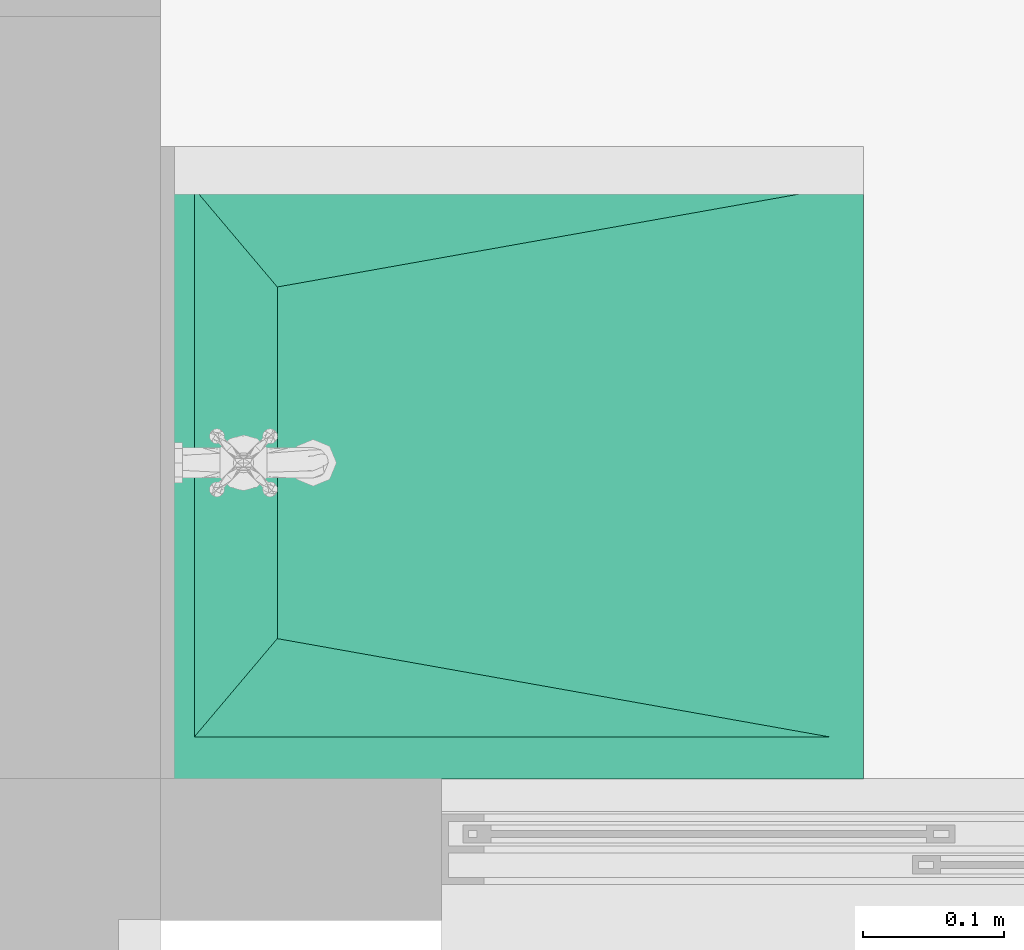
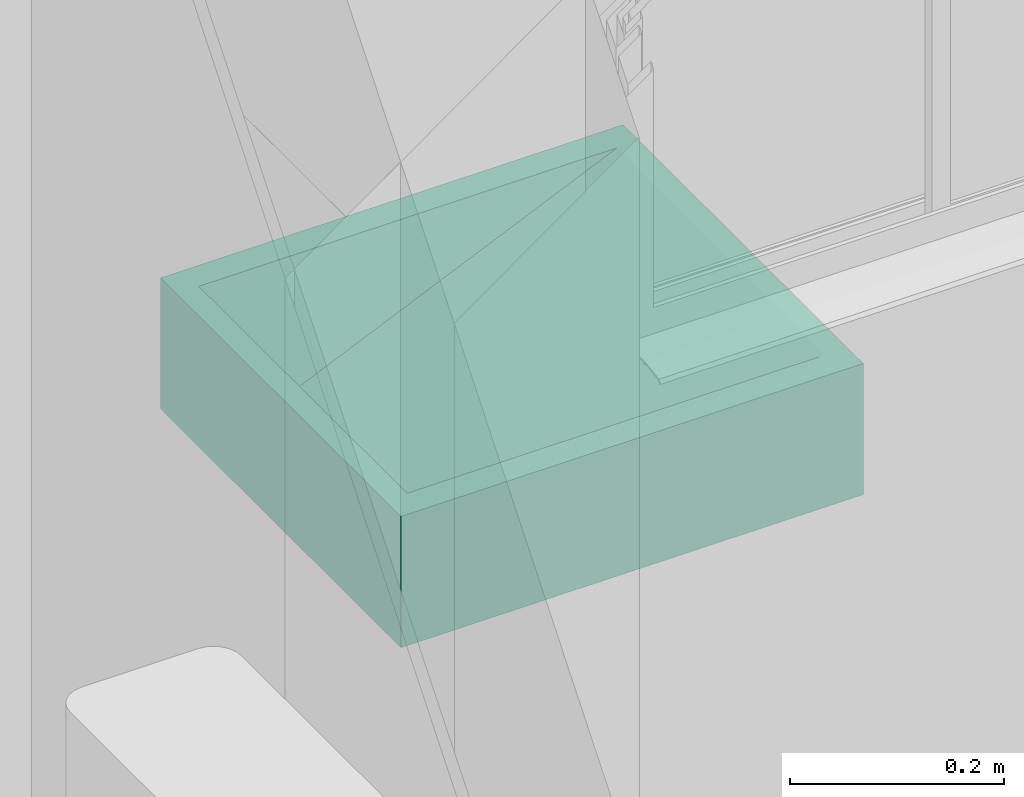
# One storey, part 38 of 47: 1 flow terminal.
"""IFC4 building model written with IfcOpenShell, lengths in metres."""

from ifc_helpers import new_model, entity, si_unit, converted_unit, derived_unit, direction, frame, origin, place, context, subcontext, project, spatial, polygons, source, transform, mapped, material, type_object, type_shapes, element, save


model = new_model("IFC4")

# Units and contexts
model_context = context("Model", 3, precision=1e-05, world=origin(), true_north=direction((6.123031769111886e-17, 1.0)))
body_context = subcontext(model_context, "Body", "Model", "MODEL_VIEW")
ifc_project = project(units=[si_unit("LENGTHUNIT", "METRE"), si_unit("AREAUNIT", "SQUARE_METRE"), si_unit("VOLUMEUNIT", "CUBIC_METRE"), converted_unit("PLANEANGLEUNIT", "DEGREE", entity("IfcRatioMeasure", 0.017453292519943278), si_unit("PLANEANGLEUNIT", "RADIAN"), dimensions=[0, 0, 0, 0, 0, 0, 0]), si_unit("MASSUNIT", "GRAM", prefix="KILO"), derived_unit("MASSDENSITYUNIT", [(si_unit("MASSUNIT", "GRAM", prefix="KILO"), 1), (si_unit("LENGTHUNIT", "METRE"), -3)]), derived_unit("IONCONCENTRATIONUNIT", [(si_unit("MASSUNIT", "GRAM", prefix="KILO"), 1), (si_unit("LENGTHUNIT", "METRE"), -3)]), derived_unit("MOMENTOFINERTIAUNIT", [(si_unit("LENGTHUNIT", "METRE"), 4)]), si_unit("TIMEUNIT", "SECOND"), si_unit("FREQUENCYUNIT", "HERTZ"), si_unit("THERMODYNAMICTEMPERATUREUNIT", "DEGREE_CELSIUS"), derived_unit("THERMALTRANSMITTANCEUNIT", [(si_unit("MASSUNIT", "GRAM", prefix="KILO"), 1), (si_unit("THERMODYNAMICTEMPERATUREUNIT", "KELVIN"), -1), (si_unit("TIMEUNIT", "SECOND"), -3)]), derived_unit("THERMALCONDUCTANCEUNIT", [(si_unit("MASSUNIT", "GRAM", prefix="KILO"), 1), (si_unit("THERMODYNAMICTEMPERATUREUNIT", "KELVIN"), -1), (si_unit("TIMEUNIT", "SECOND"), -3), (si_unit("LENGTHUNIT", "METRE"), 1)]), derived_unit("VOLUMETRICFLOWRATEUNIT", [(si_unit("LENGTHUNIT", "METRE"), 3), (si_unit("TIMEUNIT", "SECOND"), -1)]), derived_unit("MASSFLOWRATEUNIT", [(si_unit("MASSUNIT", "GRAM", prefix="KILO"), 1), (si_unit("TIMEUNIT", "SECOND"), -1)]), derived_unit("ROTATIONALFREQUENCYUNIT", [(si_unit("TIMEUNIT", "SECOND"), -1)]), si_unit("ELECTRICCURRENTUNIT", "AMPERE"), si_unit("ELECTRICVOLTAGEUNIT", "VOLT"), si_unit("POWERUNIT", "WATT"), si_unit("FORCEUNIT", "NEWTON", prefix="KILO"), si_unit("ILLUMINANCEUNIT", "LUX"), si_unit("LUMINOUSFLUXUNIT", "LUMEN"), si_unit("LUMINOUSINTENSITYUNIT", "CANDELA"), derived_unit("USERDEFINED", [(si_unit("MASSUNIT", "GRAM", prefix="KILO"), -1), (si_unit("LENGTHUNIT", "METRE"), -2), (si_unit("TIMEUNIT", "SECOND"), 3), (si_unit("LUMINOUSFLUXUNIT", "LUMEN"), 1)]), derived_unit("USERDEFINED", [(si_unit("MASSUNIT", "GRAM", prefix="KILO"), 1), (si_unit("TIMEUNIT", "SECOND"), -3), (si_unit("LENGTHUNIT", "METRE"), 3), (si_unit("ELECTRICCURRENTUNIT", "AMPERE"), -2)]), derived_unit("SOUNDPOWERUNIT", [(si_unit("MASSUNIT", "GRAM", prefix="KILO"), 1), (si_unit("TIMEUNIT", "SECOND"), -3), (si_unit("LENGTHUNIT", "METRE"), 2)]), derived_unit("SOUNDPRESSUREUNIT", [(si_unit("MASSUNIT", "GRAM", prefix="KILO"), 1), (si_unit("LENGTHUNIT", "METRE"), -1), (si_unit("TIMEUNIT", "SECOND"), -2)]), derived_unit("LINEARVELOCITYUNIT", [(si_unit("LENGTHUNIT", "METRE"), 1), (si_unit("TIMEUNIT", "SECOND"), -1)]), si_unit("PRESSUREUNIT", "PASCAL"), derived_unit("USERDEFINED", [(si_unit("MASSUNIT", "GRAM", prefix="KILO"), 1), (si_unit("LENGTHUNIT", "METRE"), -2), (si_unit("TIMEUNIT", "SECOND"), -2)]), derived_unit("LINEARFORCEUNIT", [(si_unit("MASSUNIT", "GRAM", prefix="KILO"), 1), (si_unit("TIMEUNIT", "SECOND"), -2)]), derived_unit("PLANARFORCEUNIT", [(si_unit("MASSUNIT", "GRAM", prefix="KILO"), 1), (si_unit("LENGTHUNIT", "METRE"), -1), (si_unit("TIMEUNIT", "SECOND"), -2)]), derived_unit("SPECIFICHEATCAPACITYUNIT", [(si_unit("THERMODYNAMICTEMPERATUREUNIT", "KELVIN"), -1), (si_unit("LENGTHUNIT", "METRE"), 2), (si_unit("TIMEUNIT", "SECOND"), -2)]), derived_unit("HEATINGVALUEUNIT", [(si_unit("LENGTHUNIT", "METRE"), 2), (si_unit("TIMEUNIT", "SECOND"), -2)]), derived_unit("VAPORPERMEABILITYUNIT", [(si_unit("LENGTHUNIT", "METRE"), -1), (si_unit("TIMEUNIT", "SECOND"), 1)]), derived_unit("DYNAMICVISCOSITYUNIT", [(si_unit("MASSUNIT", "GRAM", prefix="KILO"), 1), (si_unit("TIMEUNIT", "SECOND"), -1), (si_unit("LENGTHUNIT", "METRE"), -1)]), derived_unit("THERMALEXPANSIONCOEFFICIENTUNIT", [(si_unit("THERMODYNAMICTEMPERATUREUNIT", "KELVIN"), -1)]), derived_unit("MODULUSOFELASTICITYUNIT", [(si_unit("MASSUNIT", "GRAM", prefix="KILO"), 1), (si_unit("LENGTHUNIT", "METRE"), -1), (si_unit("TIMEUNIT", "SECOND"), -2)]), derived_unit("ISOTHERMALMOISTURECAPACITYUNIT", [(si_unit("LENGTHUNIT", "METRE"), 3), (si_unit("MASSUNIT", "GRAM", prefix="KILO"), -1)]), derived_unit("MOISTUREDIFFUSIVITYUNIT", [(si_unit("TIMEUNIT", "SECOND"), -1), (si_unit("LENGTHUNIT", "METRE"), 2)])], contexts=[model_context])

# Site, building, storey, space
site_placement = place(None, origin())
site = spatial("IfcSite", under=ifc_project, at=site_placement, Name="Default", CompositionType="ELEMENT")
building_placement = place(site_placement, origin())
building = spatial("IfcBuilding", under=site, at=building_placement, CompositionType="ELEMENT")
storey_placement = place(building_placement, frame((0.0, 0.0, 11.750000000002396)))
storey = spatial("IfcBuildingStorey", under=building, at=storey_placement, Name="Nivel 6", CompositionType="ELEMENT", Elevation=11.750000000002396)
space_placement = place(storey_placement, origin())
space = spatial("IfcSpace", under=storey, at=space_placement, Name="321", CompositionType="ELEMENT", PredefinedType="SPACE")

# Flow terminal
ifc_material = material(Name="Lavadero", Category="Materials")
distribution_element_type = type_object("IfcDistributionElementType", Name="D2010 - Lavadero - Granito:D2010 - Lavadero - Concreto", material=ifc_material)
shared_shape = source(origin(), body_context, "Body", "Tessellation", [
    polygons([(0.03000000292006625, 0.47600086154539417, 0.15000000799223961), (0.02999997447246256, 0.024000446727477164, 0.15000000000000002), (0.09992663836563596, 0.08303011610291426, 0.05000015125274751), (0.4199999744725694, 0.024000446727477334, 0.15000000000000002), (0.3500731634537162, 0.08303019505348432, 0.050000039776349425), (0.4199999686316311, 0.4760007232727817, 0.15000001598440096), (0.4499999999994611, 0.5000004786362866, 0.0), (0.4499999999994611, 0.5000004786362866, 0.15000000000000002), (0.4499999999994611, 3.383959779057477e-17, 0.15000000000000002), (0.4499999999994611, 3.383959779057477e-17, 0.0), (6.767919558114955e-17, 0.5000004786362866, 0.0), (6.767919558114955e-17, 0.5000004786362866, 0.15000000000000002), (6.767919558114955e-17, 3.383959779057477e-17, 0.0), (6.767919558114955e-17, 3.383959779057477e-17, 0.15000000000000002), (0.4199999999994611, 0.4800004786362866, 0.0), (0.030000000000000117, 0.4800004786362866, 0.0), (0.030000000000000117, 0.019999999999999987, 0.0), (0.4199999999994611, 0.019999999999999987, 0.0), (0.4199999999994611, 0.4800004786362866, 0.034883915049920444), (0.4199999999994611, 0.019999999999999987, 0.034883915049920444), (0.030000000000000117, 0.4800004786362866, 0.034883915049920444), (0.030000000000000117, 0.019999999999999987, 0.034883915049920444)], [[[1, 2, 3]], [[2, 4, 5, 3]], [[4, 6, 5]], [[3, 5, 6, 1]], [[7, 8, 9, 10]], [[7, 11, 12, 8]], [[11, 13, 14, 12]], [[9, 14, 13, 10]], [[10, 13, 11, 7], [15, 16, 17, 18]], [[8, 12, 14, 9], [1, 6, 4, 2]], [[19, 15, 18, 20]], [[21, 16, 15, 19]], [[22, 17, 16, 21]], [[20, 18, 17, 22]], [[20, 22, 21, 19]]], closed=True),
])
type_shapes(distribution_element_type, [shared_shape])
flow_terminal_placement = place(space_placement, frame((4.08749999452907, -4.675000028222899, 0.7799999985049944), z_axis=(0.0, 0.0, 1.0), x_axis=(0.0, -1.0, 0.0)))
element("IfcFlowTerminal", 1, at=flow_terminal_placement, inside=space, type_object=distribution_element_type, material=ifc_material, Name="D2010 - Lavadero - Granito:D2010 - Lavadero - Concreto", ObjectType="D2010 - Lavadero - Granito:D2010 - Lavadero - Concreto", context=body_context, shape_type="MappedRepresentation", body=[
    mapped(shared_shape, transform((0.0, 0.0, 0.0), scale=1.0)),
])

save(model, "model.ifc")
